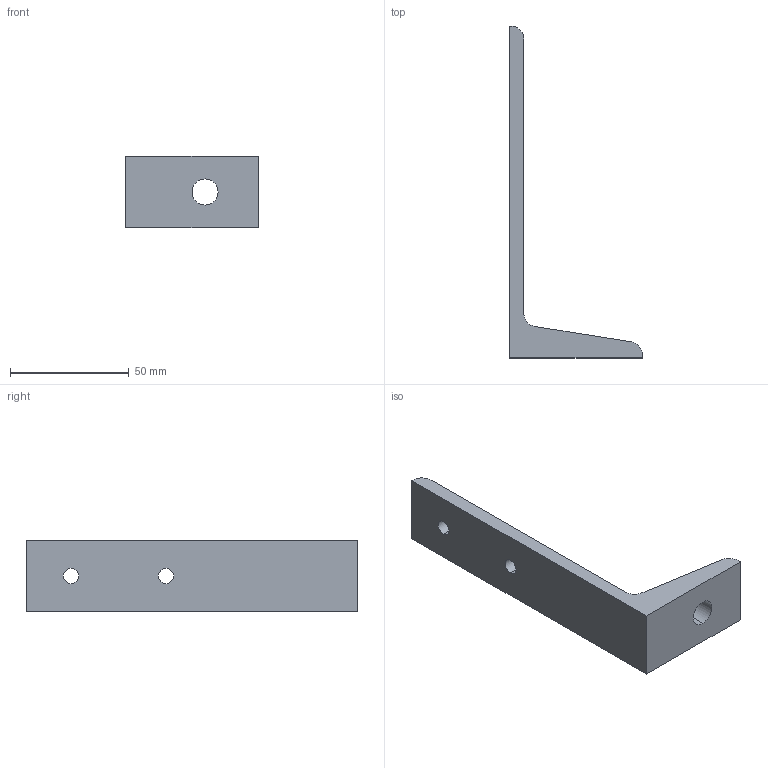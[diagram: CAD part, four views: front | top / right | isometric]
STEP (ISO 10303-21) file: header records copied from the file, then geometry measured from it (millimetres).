
FILE_DESCRIPTION (( 'STEP AP203' ), '1' );
FILE_NAME ('3030華褐蟀諉璃.STEP', '2016-04-10T09:04:26', ( '' ), ( '' ), 'SwSTEP 2.0', 'SolidWorks 2013', '' );
FILE_SCHEMA (( 'CONFIG_CONTROL_DESIGN' ));
Length unit declared in the file: millimetre
Products named in the file (1): 3030華褐蟀諉璃
Bounding box: 56 x 140 x 30 mm (x, y, z)
Volume: 38149.4 mm3; surface area: 14355 mm2
Topology: 1 solids, 1 shells, 21 faces, 54 edges, 36 vertices
Faces by surface type: cylinder 12, plane 9
Entity records: 738 total; most frequent: CARTESIAN_POINT 121, DIRECTION 116, ORIENTED_EDGE 108, EDGE_CURVE 54, AXIS2_PLACEMENT_3D 43, VERTEX_POINT 36, VECTOR 30, LINE 30
